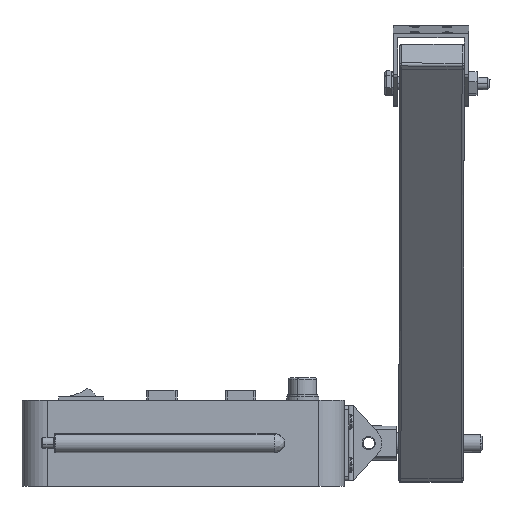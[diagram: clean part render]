
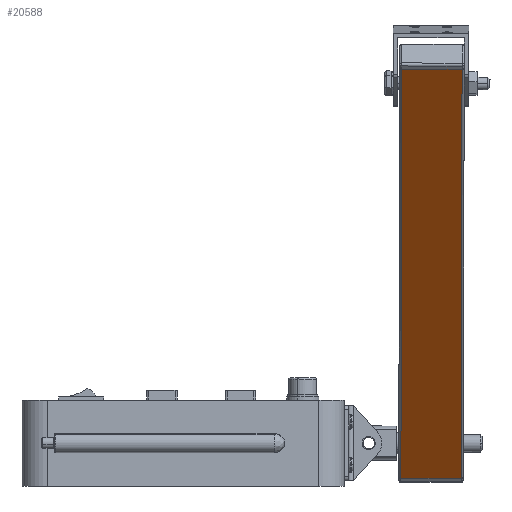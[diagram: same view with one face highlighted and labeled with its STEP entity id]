
A CAD part, left-side view. The second image highlights one B-rep face of the part: STEP entity #20588.
In plain terms, the highlighted planar face has unit normal (-0.76, 0.002, -0.649) as drawn and (-1, 0, 0) by its records, which use the part's own axes.
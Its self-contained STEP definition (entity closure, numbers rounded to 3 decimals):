
#806 = DIRECTION ( 'NONE',  ( 0., 1., 0. ) ) ;
#1096 = CARTESIAN_POINT ( 'NONE',  ( 0., 15., 250. ) ) ;
#1221 = EDGE_CURVE ( 'NONE', #12316, #10448, #19071, .T. ) ;
#2705 = CARTESIAN_POINT ( 'NONE',  ( 0., 29., 250. ) ) ;
#3564 = EDGE_CURVE ( 'NONE', #5380, #12316, #14154, .T. ) ;
#3651 = LINE ( 'NONE', #8393, #22435 ) ;
#3688 = DIRECTION ( 'NONE',  ( 0., 0., -1. ) ) ;
#3779 = CARTESIAN_POINT ( 'NONE',  ( 0., 1., 250. ) ) ;
#5380 = VERTEX_POINT ( 'NONE', #3779 ) ;
#7042 = LINE ( 'NONE', #9543, #17221 ) ;
#7904 = CARTESIAN_POINT ( 'NONE',  ( 0., 1., 0. ) ) ;
#8393 = CARTESIAN_POINT ( 'NONE',  ( 0., 15., 0. ) ) ;
#9543 = CARTESIAN_POINT ( 'NONE',  ( 0., 1., 125. ) ) ;
#10448 = VERTEX_POINT ( 'NONE', #13507 ) ;
#10973 = ORIENTED_EDGE ( 'NONE', *, *, #22361, .F. ) ;
#11595 = ORIENTED_EDGE ( 'NONE', *, *, #1221, .T. ) ;
#12039 = VECTOR ( 'NONE', #3688, 1000. ) ;
#12316 = VERTEX_POINT ( 'NONE', #2705 ) ;
#13507 = CARTESIAN_POINT ( 'NONE',  ( 0., 29., 0. ) ) ;
#13804 = CARTESIAN_POINT ( 'NONE',  ( 0., 29., 125. ) ) ;
#14154 = LINE ( 'NONE', #1096, #23339 ) ;
#14424 = ORIENTED_EDGE ( 'NONE', *, *, #3564, .T. ) ;
#15146 = DIRECTION ( 'NONE',  ( 0., 0., -1. ) ) ;
#17221 = VECTOR ( 'NONE', #23364, 1000. ) ;
#18262 = DIRECTION ( 'NONE',  ( 1., 0., 0. ) ) ;
#19071 = LINE ( 'NONE', #13804, #12039 ) ;
#20530 = EDGE_LOOP ( 'NONE', ( #24479, #14424, #11595, #10973 ) ) ;
#20588 = ADVANCED_FACE ( 'NONE', ( #23425 ), #21241, .F. ) ;
#21082 = DIRECTION ( 'NONE',  ( 0., 1., 0. ) ) ;
#21241 = PLANE ( 'NONE',  #22665 ) ;
#21978 = EDGE_CURVE ( 'NONE', #5380, #24934, #7042, .T. ) ;
#22361 = EDGE_CURVE ( 'NONE', #24934, #10448, #3651, .T. ) ;
#22435 = VECTOR ( 'NONE', #806, 1000. ) ;
#22665 = AXIS2_PLACEMENT_3D ( 'NONE', #25116, #18262, #15146 ) ;
#23339 = VECTOR ( 'NONE', #21082, 1000. ) ;
#23364 = DIRECTION ( 'NONE',  ( 0., 0., -1. ) ) ;
#23425 = FACE_OUTER_BOUND ( 'NONE', #20530, .T. ) ;
#24479 = ORIENTED_EDGE ( 'NONE', *, *, #21978, .F. ) ;
#24934 = VERTEX_POINT ( 'NONE', #7904 ) ;
#25116 = CARTESIAN_POINT ( 'NONE',  ( 0., 1., 250. ) ) ;
